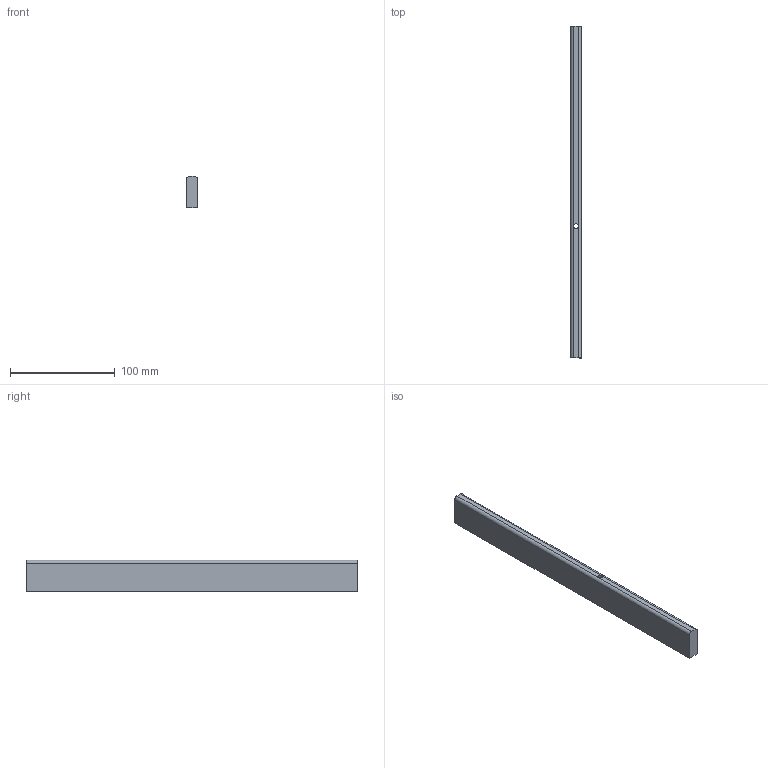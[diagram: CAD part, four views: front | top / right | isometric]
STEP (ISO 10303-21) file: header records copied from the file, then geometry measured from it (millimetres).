
FILE_DESCRIPTION (( 'STEP AP214' ), '1' );
FILE_NAME ('_Seitenreling_SP60702400_RL317,1.step', '2010-09-06T14:52:02', ( 'grass' ), ( '' ), 'SwSTEP 2.0', 'SolidWorks 2010', '' );
FILE_SCHEMA (( 'AUTOMOTIVE_DESIGN' ));
Length unit declared in the file: millimetre
Products named in the file (1): _Seitenreling_SP60702400_RL317,1
Bounding box: 10.5 x 317.1 x 30 mm (x, y, z)
Volume: 97742.6 mm3; surface area: 26029.2 mm2
Topology: 1 solids, 1 shells, 14 faces, 34 edges, 22 vertices
Faces by surface type: plane 8, cylinder 6
Entity records: 454 total; most frequent: DIRECTION 78, CARTESIAN_POINT 71, ORIENTED_EDGE 68, EDGE_CURVE 34, AXIS2_PLACEMENT_3D 29, VERTEX_POINT 22, VECTOR 20, LINE 20
